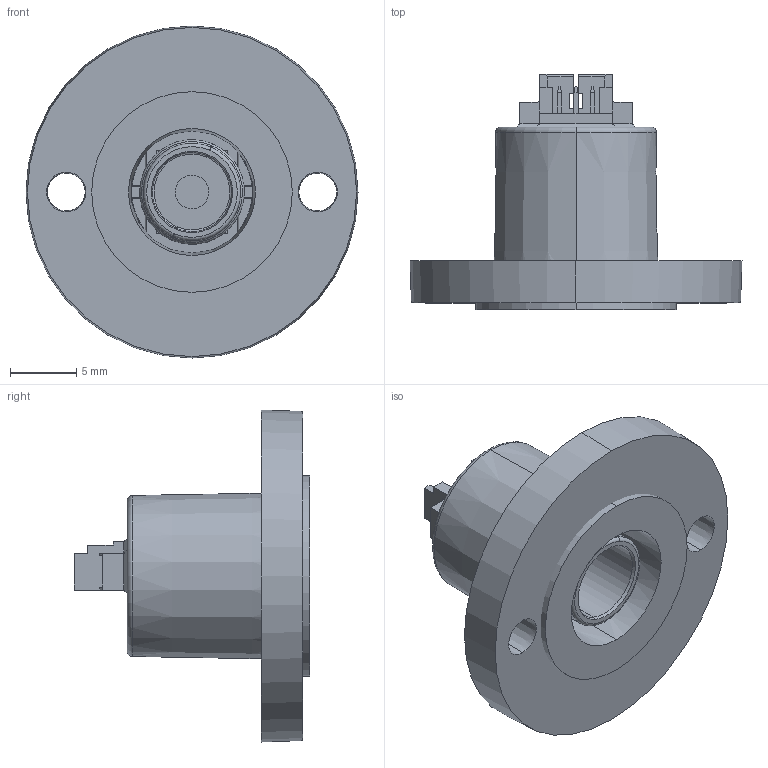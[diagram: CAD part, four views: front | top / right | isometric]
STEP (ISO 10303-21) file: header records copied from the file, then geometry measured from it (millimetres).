
FILE_DESCRIPTION (( 'STEP AP214' ), '1' );
FILE_NAME ('MAE3-X-236-220-7-X.STEP', '2017-01-25T15:47:36', ( '' ), ( '' ), 'SwSTEP 2.0', 'SolidWorks 2016', '' );
FILE_SCHEMA (( 'AUTOMOTIVE_DESIGN' ));
Length unit declared in the file: inch
Products named in the file (1): MAE3-X-236-220-7-X
Bounding box: 25.15 x 17.82 x 25.15 mm (x, y, z)
Volume: 2559 mm3; surface area: 3379.7 mm2
Topology: 6 solids, 6 shells, 578 faces, 1536 edges, 994 vertices
Faces by surface type: plane 428, cylinder 106, cone 24, torus 20
Entity records: 25427 total; most frequent: CARTESIAN_POINT 3145, ORIENTED_EDGE 3072, DIRECTION 2972, EDGE_CURVE 1536, VECTOR 1234, LINE 1234, VERTEX_POINT 994, AXIS2_PLACEMENT_3D 869
